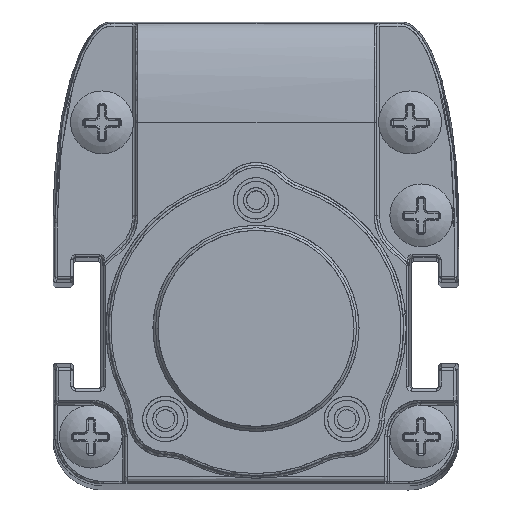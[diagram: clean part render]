
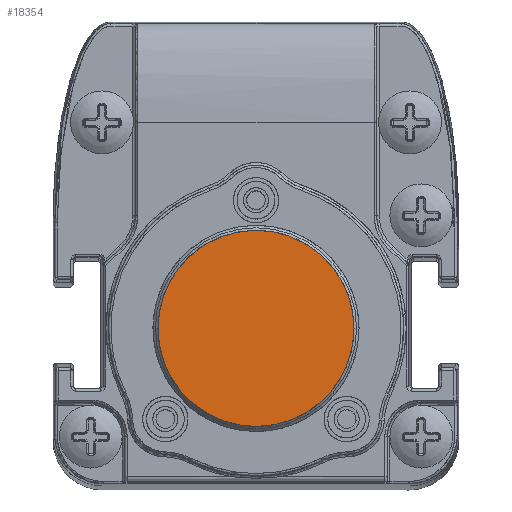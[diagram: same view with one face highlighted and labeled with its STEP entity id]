
A CAD part, top view. The second image highlights one B-rep face of the part: STEP entity #18354.
In plain terms, the highlighted planar face has unit normal (0, 0, 1).
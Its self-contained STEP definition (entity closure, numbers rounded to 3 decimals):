
#15629=B_SPLINE_CURVE_WITH_KNOTS('',3,(#62352,#62353,#62354,#62355,#62356,
#62357,#62358,#62359,#62360,#62361,#62362,#62363,#62364,#62365,#62366,#62367,
#62368,#62369,#62370,#62371,#62372,#62373,#62374,#62375,#62376,#62377,#62378,
#62379,#62380,#62381,#62382,#62383,#62384,#62385,#62386,#62387,#62388,#62389,
#62390,#62391,#62392,#62393,#62394,#62395,#62396,#62397,#62398,#62399,#62400,
#62401,#62402,#62403,#62404,#62405,#62406,#62407,#62408,#62409,#62410,#62411,
#62412,#62413,#62414,#62415,#62416,#62417,#62418,#62419,#62420,#62421,#62422,
#62423,#62424,#62425,#62426,#62427,#62428,#62429,#62430,#62431,#62432,#62433,
#62434,#62435,#62436,#62437,#62438,#62439,#62440,#62441,#62442,#62443,#62444,
#62445,#62446,#62447,#62448,#62449,#62450,#62451,#62452,#62453,#62454),
 .UNSPECIFIED.,.T.,.F.,(1,3,3,3,3,3,3,3,3,3,3,3,3,3,3,3,3,3,3,3,3,3,3,3,
3,3,3,3,3,3,3,3,3,3,3,3,1),(-0.029,0.,0.029,0.059,
0.088,0.118,0.147,0.176,
0.206,0.235,0.265,0.294,
0.324,0.353,0.382,0.412,
0.441,0.471,0.5,0.529,0.559,
0.588,0.618,0.647,0.676,
0.706,0.735,0.765,0.794,
0.824,0.853,0.882,0.912,
0.941,0.971,1.,1.029),.UNSPECIFIED.);
#18354=ADVANCED_FACE('',(#20377),#19330,.T.);
#19330=PLANE('',#43784);
#20377=FACE_OUTER_BOUND('',#21777,.T.);
#21777=EDGE_LOOP('',(#27987));
#27987=ORIENTED_EDGE('',*,*,#37086,.T.);
#32124=VERTEX_POINT('',#62455);
#37086=EDGE_CURVE('',#32124,#32124,#15629,.T.);
#43784=AXIS2_PLACEMENT_3D('',#62456,#47653,#47654);
#47653=DIRECTION('',(0.,0.,1.));
#47654=DIRECTION('',(1.,0.,0.));
#62352=CARTESIAN_POINT('',(7.8,0.,233.34));
#62353=CARTESIAN_POINT('',(7.8,0.465,233.34));
#62354=CARTESIAN_POINT('',(7.759,0.925,233.34));
#62355=CARTESIAN_POINT('',(7.679,1.376,233.34));
#62356=CARTESIAN_POINT('',(7.638,1.601,233.34));
#62357=CARTESIAN_POINT('',(7.588,1.825,233.34));
#62358=CARTESIAN_POINT('',(7.527,2.047,233.34));
#62359=CARTESIAN_POINT('',(7.466,2.269,233.34));
#62360=CARTESIAN_POINT('',(7.407,2.458,233.34));
#62361=CARTESIAN_POINT('',(7.315,2.708,233.34));
#62362=CARTESIAN_POINT('',(7.129,3.209,233.34));
#62363=CARTESIAN_POINT('',(6.898,3.683,233.34));
#62364=CARTESIAN_POINT('',(6.62,4.128,233.34));
#62365=CARTESIAN_POINT('',(6.343,4.573,233.34));
#62366=CARTESIAN_POINT('',(6.043,4.965,233.34));
#62367=CARTESIAN_POINT('',(5.651,5.376,233.34));
#62368=CARTESIAN_POINT('',(4.868,6.2,233.34));
#62369=CARTESIAN_POINT('',(3.912,6.837,233.34));
#62370=CARTESIAN_POINT('',(2.89,7.245,233.34));
#62371=CARTESIAN_POINT('',(2.378,7.449,233.34));
#62372=CARTESIAN_POINT('',(1.856,7.597,233.34));
#62373=CARTESIAN_POINT('',(1.324,7.689,233.34));
#62374=CARTESIAN_POINT('',(1.058,7.734,233.34));
#62375=CARTESIAN_POINT('',(0.79,7.766,233.34));
#62376=CARTESIAN_POINT('',(0.52,7.784,233.34));
#62377=CARTESIAN_POINT('',(0.249,7.801,233.34));
#62378=CARTESIAN_POINT('',(-0.055,7.804,233.34));
#62379=CARTESIAN_POINT('',(-0.3,7.794,233.34));
#62380=CARTESIAN_POINT('',(-0.79,7.775,233.34));
#62381=CARTESIAN_POINT('',(-1.271,7.712,233.34));
#62382=CARTESIAN_POINT('',(-1.742,7.604,233.34));
#62383=CARTESIAN_POINT('',(-2.213,7.496,233.34));
#62384=CARTESIAN_POINT('',(-2.713,7.327,233.34));
#62385=CARTESIAN_POINT('',(-3.123,7.147,233.34));
#62386=CARTESIAN_POINT('',(-3.534,6.968,233.34));
#62387=CARTESIAN_POINT('',(-3.924,6.757,233.34));
#62388=CARTESIAN_POINT('',(-4.293,6.513,233.34));
#62389=CARTESIAN_POINT('',(-4.477,6.392,233.34));
#62390=CARTESIAN_POINT('',(-4.656,6.262,233.34));
#62391=CARTESIAN_POINT('',(-4.83,6.125,233.34));
#62392=CARTESIAN_POINT('',(-5.004,5.987,233.34));
#62393=CARTESIAN_POINT('',(-5.15,5.864,233.34));
#62394=CARTESIAN_POINT('',(-5.337,5.688,233.34));
#62395=CARTESIAN_POINT('',(-5.712,5.337,233.34));
#62396=CARTESIAN_POINT('',(-6.047,4.956,233.34));
#62397=CARTESIAN_POINT('',(-6.341,4.545,233.34));
#62398=CARTESIAN_POINT('',(-6.635,4.134,233.34));
#62399=CARTESIAN_POINT('',(-6.869,3.738,233.34));
#62400=CARTESIAN_POINT('',(-7.102,3.226,233.34));
#62401=CARTESIAN_POINT('',(-7.567,2.203,233.34));
#62402=CARTESIAN_POINT('',(-7.8,1.124,233.34));
#62403=CARTESIAN_POINT('',(-7.8,0.,233.34));
#62404=CARTESIAN_POINT('',(-7.8,-0.562,233.34));
#62405=CARTESIAN_POINT('',(-7.742,-1.113,233.34));
#62406=CARTESIAN_POINT('',(-7.625,-1.651,233.34));
#62407=CARTESIAN_POINT('',(-7.509,-2.189,233.34));
#62408=CARTESIAN_POINT('',(-7.314,-2.758,233.34));
#62409=CARTESIAN_POINT('',(-7.102,-3.226,233.34));
#62410=CARTESIAN_POINT('',(-6.889,-3.694,233.34));
#62411=CARTESIAN_POINT('',(-6.636,-4.134,233.34));
#62412=CARTESIAN_POINT('',(-6.341,-4.544,233.34));
#62413=CARTESIAN_POINT('',(-6.194,-4.75,233.34));
#62414=CARTESIAN_POINT('',(-6.037,-4.947,233.34));
#62415=CARTESIAN_POINT('',(-5.87,-5.138,233.34));
#62416=CARTESIAN_POINT('',(-5.702,-5.329,233.34));
#62417=CARTESIAN_POINT('',(-5.5,-5.535,233.34));
#62418=CARTESIAN_POINT('',(-5.337,-5.688,233.34));
#62419=CARTESIAN_POINT('',(-5.01,-5.995,233.34));
#62420=CARTESIAN_POINT('',(-4.662,-6.27,233.34));
#62421=CARTESIAN_POINT('',(-4.293,-6.513,233.34));
#62422=CARTESIAN_POINT('',(-3.924,-6.756,233.34));
#62423=CARTESIAN_POINT('',(-3.573,-6.951,233.34));
#62424=CARTESIAN_POINT('',(-3.123,-7.147,233.34));
#62425=CARTESIAN_POINT('',(-2.674,-7.344,233.34));
#62426=CARTESIAN_POINT('',(-2.213,-7.496,233.34));
#62427=CARTESIAN_POINT('',(-1.743,-7.604,233.34));
#62428=CARTESIAN_POINT('',(-1.507,-7.658,233.34));
#62429=CARTESIAN_POINT('',(-1.269,-7.701,233.34));
#62430=CARTESIAN_POINT('',(-1.029,-7.732,233.34));
#62431=CARTESIAN_POINT('',(-0.789,-7.764,233.34));
#62432=CARTESIAN_POINT('',(-0.575,-7.784,233.34));
#62433=CARTESIAN_POINT('',(-0.3,-7.794,233.34));
#62434=CARTESIAN_POINT('',(0.801,-7.837,233.34));
#62435=CARTESIAN_POINT('',(1.834,-7.666,233.34));
#62436=CARTESIAN_POINT('',(2.89,-7.245,233.34));
#62437=CARTESIAN_POINT('',(3.417,-7.035,233.34));
#62438=CARTESIAN_POINT('',(3.912,-6.774,233.34));
#62439=CARTESIAN_POINT('',(4.372,-6.462,233.34));
#62440=CARTESIAN_POINT('',(4.833,-6.15,233.34));
#62441=CARTESIAN_POINT('',(5.283,-5.763,233.34));
#62442=CARTESIAN_POINT('',(5.651,-5.376,233.34));
#62443=CARTESIAN_POINT('',(6.019,-4.989,233.34));
#62444=CARTESIAN_POINT('',(6.342,-4.573,233.34));
#62445=CARTESIAN_POINT('',(6.62,-4.128,233.34));
#62446=CARTESIAN_POINT('',(6.759,-3.906,233.34));
#62447=CARTESIAN_POINT('',(6.886,-3.676,233.34));
#62448=CARTESIAN_POINT('',(7.002,-3.44,233.34));
#62449=CARTESIAN_POINT('',(7.117,-3.203,233.34));
#62450=CARTESIAN_POINT('',(7.234,-2.926,233.34));
#62451=CARTESIAN_POINT('',(7.315,-2.708,233.34));
#62452=CARTESIAN_POINT('',(7.638,-1.835,233.34));
#62453=CARTESIAN_POINT('',(7.8,-0.933,233.34));
#62454=CARTESIAN_POINT('',(7.8,0.,233.34));
#62455=CARTESIAN_POINT('',(7.8,0.,233.34));
#62456=CARTESIAN_POINT('',(-8.9,-8.81,233.34));
